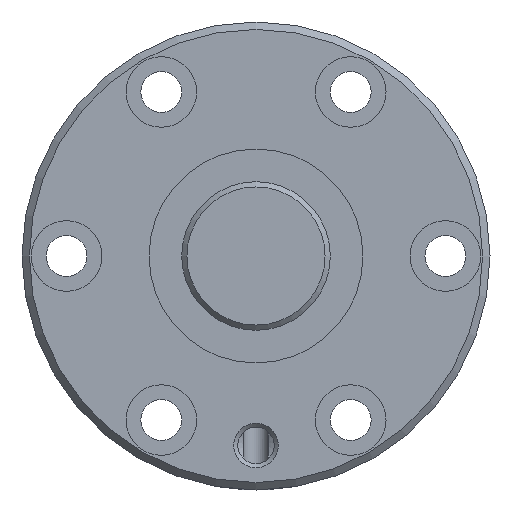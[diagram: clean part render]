
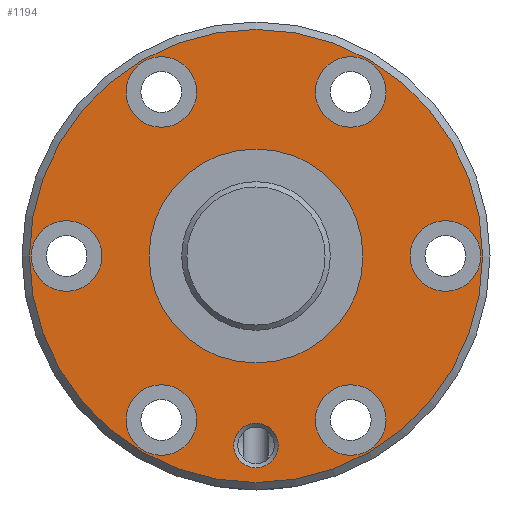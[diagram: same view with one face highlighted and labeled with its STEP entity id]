
A CAD part, left-side view. The second image highlights one B-rep face of the part: STEP entity #1194.
In plain terms, the highlighted planar face has unit normal (-1, 0, 0).
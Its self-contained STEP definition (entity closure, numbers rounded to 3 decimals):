
#204=ORIENTED_EDGE('',*,*,#489,.T.);
#205=ORIENTED_EDGE('',*,*,#490,.T.);
#206=ORIENTED_EDGE('',*,*,#491,.T.);
#207=ORIENTED_EDGE('',*,*,#492,.T.);
#208=ORIENTED_EDGE('',*,*,#493,.T.);
#209=ORIENTED_EDGE('',*,*,#494,.T.);
#210=ORIENTED_EDGE('',*,*,#495,.T.);
#211=ORIENTED_EDGE('',*,*,#496,.T.);
#212=ORIENTED_EDGE('',*,*,#488,.F.);
#488=EDGE_CURVE('',#634,#634,#722,.T.);
#489=EDGE_CURVE('',#635,#635,#723,.T.);
#490=EDGE_CURVE('',#636,#636,#724,.F.);
#491=EDGE_CURVE('',#637,#637,#725,.T.);
#492=EDGE_CURVE('',#638,#638,#726,.T.);
#493=EDGE_CURVE('',#639,#639,#727,.T.);
#494=EDGE_CURVE('',#640,#640,#728,.T.);
#495=EDGE_CURVE('',#641,#641,#729,.T.);
#496=EDGE_CURVE('',#642,#642,#730,.T.);
#634=VERTEX_POINT('',#2079);
#635=VERTEX_POINT('',#2082);
#636=VERTEX_POINT('',#2084);
#637=VERTEX_POINT('',#2086);
#638=VERTEX_POINT('',#2088);
#639=VERTEX_POINT('',#2090);
#640=VERTEX_POINT('',#2092);
#641=VERTEX_POINT('',#2094);
#642=VERTEX_POINT('',#2096);
#722=CIRCLE('',#1320,30.5);
#723=CIRCLE('',#1322,14.4);
#724=CIRCLE('',#1323,4.75);
#725=CIRCLE('',#1324,3.);
#726=CIRCLE('',#1325,4.75);
#727=CIRCLE('',#1326,4.75);
#728=CIRCLE('',#1327,4.75);
#729=CIRCLE('',#1328,4.75);
#730=CIRCLE('',#1329,4.75);
#837=EDGE_LOOP('',(#204));
#838=EDGE_LOOP('',(#205));
#839=EDGE_LOOP('',(#206));
#840=EDGE_LOOP('',(#207));
#841=EDGE_LOOP('',(#208));
#842=EDGE_LOOP('',(#209));
#843=EDGE_LOOP('',(#210));
#844=EDGE_LOOP('',(#211));
#845=EDGE_LOOP('',(#212));
#1003=FACE_BOUND('',#837,.T.);
#1004=FACE_BOUND('',#838,.T.);
#1005=FACE_BOUND('',#839,.T.);
#1006=FACE_BOUND('',#840,.T.);
#1007=FACE_BOUND('',#841,.T.);
#1008=FACE_BOUND('',#842,.T.);
#1009=FACE_BOUND('',#843,.T.);
#1010=FACE_BOUND('',#844,.T.);
#1011=FACE_BOUND('',#845,.T.);
#1145=PLANE('',#1321);
#1194=ADVANCED_FACE('',(#1003,#1004,#1005,#1006,#1007,#1008,#1009,#1010,
#1011),#1145,.T.);
#1320=AXIS2_PLACEMENT_3D('',#2078,#1553,#1554);
#1321=AXIS2_PLACEMENT_3D('',#2080,#1555,#1556);
#1322=AXIS2_PLACEMENT_3D('',#2081,#1557,#1558);
#1323=AXIS2_PLACEMENT_3D('',#2083,#1559,#1560);
#1324=AXIS2_PLACEMENT_3D('',#2085,#1561,#1562);
#1325=AXIS2_PLACEMENT_3D('',#2087,#1563,#1564);
#1326=AXIS2_PLACEMENT_3D('',#2089,#1565,#1566);
#1327=AXIS2_PLACEMENT_3D('',#2091,#1567,#1568);
#1328=AXIS2_PLACEMENT_3D('',#2093,#1569,#1570);
#1329=AXIS2_PLACEMENT_3D('',#2095,#1571,#1572);
#1553=DIRECTION('',(1.,0.,0.));
#1554=DIRECTION('',(0.,0.,-1.));
#1555=DIRECTION('',(-1.,0.,0.));
#1556=DIRECTION('',(0.,0.,1.));
#1557=DIRECTION('',(1.,0.,0.));
#1558=DIRECTION('',(0.,0.,-1.));
#1559=DIRECTION('',(-1.,0.,0.));
#1560=DIRECTION('',(0.,0.,1.));
#1561=DIRECTION('',(1.,0.,0.));
#1562=DIRECTION('',(0.,0.,-1.));
#1563=DIRECTION('',(1.,0.,0.));
#1564=DIRECTION('',(0.,0.,-1.));
#1565=DIRECTION('',(1.,0.,0.));
#1566=DIRECTION('',(0.,0.,-1.));
#1567=DIRECTION('',(1.,0.,0.));
#1568=DIRECTION('',(0.,0.,-1.));
#1569=DIRECTION('',(1.,0.,0.));
#1570=DIRECTION('',(0.,0.,-1.));
#1571=DIRECTION('',(1.,0.,0.));
#1572=DIRECTION('',(0.,0.,-1.));
#2078=CARTESIAN_POINT('',(0.,0.,0.));
#2079=CARTESIAN_POINT('',(0.,0.,-30.5));
#2080=CARTESIAN_POINT('',(0.,30.5,0.));
#2081=CARTESIAN_POINT('',(0.,0.,0.));
#2082=CARTESIAN_POINT('',(0.,0.,-14.4));
#2083=CARTESIAN_POINT('',(0.,25.5,0.));
#2084=CARTESIAN_POINT('',(0.,25.5,4.75));
#2085=CARTESIAN_POINT('',(0.,0.,-25.5));
#2086=CARTESIAN_POINT('',(0.,0.,-28.5));
#2087=CARTESIAN_POINT('',(0.,12.75,22.084));
#2088=CARTESIAN_POINT('',(0.,12.75,17.334));
#2089=CARTESIAN_POINT('',(0.,-12.75,-22.084));
#2090=CARTESIAN_POINT('',(0.,-12.75,-26.834));
#2091=CARTESIAN_POINT('',(0.,-12.75,22.084));
#2092=CARTESIAN_POINT('',(0.,-12.75,17.334));
#2093=CARTESIAN_POINT('',(0.,12.75,-22.084));
#2094=CARTESIAN_POINT('',(0.,12.75,-26.834));
#2095=CARTESIAN_POINT('',(0.,-25.5,0.));
#2096=CARTESIAN_POINT('',(0.,-25.5,-4.75));
